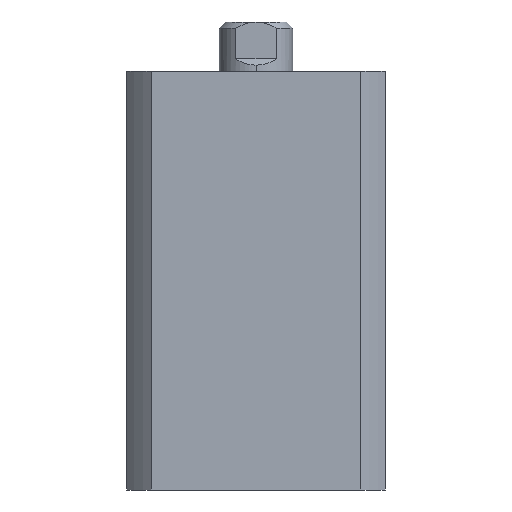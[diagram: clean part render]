
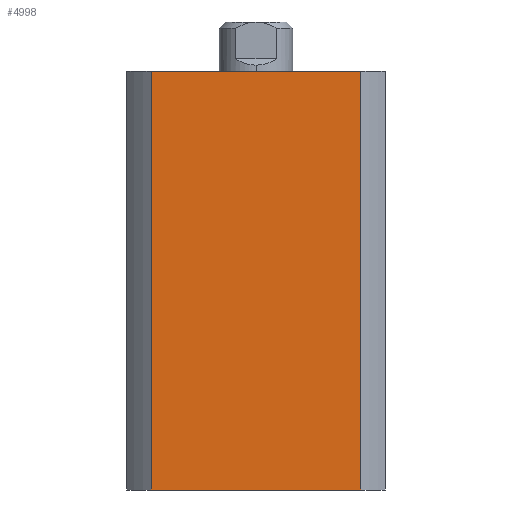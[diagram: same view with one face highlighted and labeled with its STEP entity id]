
A CAD part, left-side view. The second image highlights one B-rep face of the part: STEP entity #4998.
In plain terms, the highlighted planar face has unit normal (-1, 0, 0).
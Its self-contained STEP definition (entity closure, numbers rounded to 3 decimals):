
#186 = DIRECTION ( 'NONE',  ( 0., -1., 0. ) ) ;
#187 = CARTESIAN_POINT ( 'NONE',  ( -21., 21., 68. ) ) ;
#803 = DIRECTION ( 'NONE',  ( 0., 1., 0. ) ) ;
#808 = DIRECTION ( 'NONE',  ( 1., 0., 0. ) ) ;
#816 = PLANE ( 'NONE',  #3208 ) ;
#836 = CARTESIAN_POINT ( 'NONE',  ( -21., 21., 68. ) ) ;
#1145 = EDGE_LOOP ( 'NONE', ( #2230, #2227, #2228, #2225 ) ) ;
#1395 = VERTEX_POINT ( 'NONE', #3787 ) ;
#1487 = VERTEX_POINT ( 'NONE', #3535 ) ;
#1498 = VERTEX_POINT ( 'NONE', #3494 ) ;
#1507 = VERTEX_POINT ( 'NONE', #3455 ) ;
#1699 = VECTOR ( 'NONE', #4692, 1000. ) ;
#1701 = LINE ( 'NONE', #4691, #1699 ) ;
#1702 = VECTOR ( 'NONE', #4698, 1000. ) ;
#1716 = LINE ( 'NONE', #4690, #1702 ) ;
#1717 = VECTOR ( 'NONE', #4736, 1000. ) ;
#1719 = LINE ( 'NONE', #4746, #1717 ) ;
#1834 = VECTOR ( 'NONE', #186, 1000. ) ;
#1836 = LINE ( 'NONE', #187, #1834 ) ;
#2225 = ORIENTED_EDGE ( 'NONE', *, *, #4481, .T. ) ;
#2227 = ORIENTED_EDGE ( 'NONE', *, *, #4335, .F. ) ;
#2228 = ORIENTED_EDGE ( 'NONE', *, *, #4493, .F. ) ;
#2230 = ORIENTED_EDGE ( 'NONE', *, *, #4491, .F. ) ;
#3208 = AXIS2_PLACEMENT_3D ( 'NONE', #836, #808, #803 ) ;
#3455 = CARTESIAN_POINT ( 'NONE',  ( -21., 16.971, 0. ) ) ;
#3494 = CARTESIAN_POINT ( 'NONE',  ( -21., -16.971, 68. ) ) ;
#3535 = CARTESIAN_POINT ( 'NONE',  ( -21., 16.971, 68. ) ) ;
#3787 = CARTESIAN_POINT ( 'NONE',  ( -21., -16.971, 0. ) ) ;
#3960 = FACE_OUTER_BOUND ( 'NONE', #1145, .T. ) ;
#4335 = EDGE_CURVE ( 'NONE', #1487, #1498, #1836, .T. ) ;
#4481 = EDGE_CURVE ( 'NONE', #1507, #1395, #1719, .T. ) ;
#4491 = EDGE_CURVE ( 'NONE', #1498, #1395, #1716, .T. ) ;
#4493 = EDGE_CURVE ( 'NONE', #1507, #1487, #1701, .T. ) ;
#4690 = CARTESIAN_POINT ( 'NONE',  ( -21., -16.971, 68. ) ) ;
#4691 = CARTESIAN_POINT ( 'NONE',  ( -21., 16.971, 68. ) ) ;
#4692 = DIRECTION ( 'NONE',  ( 0., 0., 1. ) ) ;
#4698 = DIRECTION ( 'NONE',  ( 0., 0., -1. ) ) ;
#4736 = DIRECTION ( 'NONE',  ( 0., -1., 0. ) ) ;
#4746 = CARTESIAN_POINT ( 'NONE',  ( -21., 21., 0. ) ) ;
#4998 = ADVANCED_FACE ( 'NONE', ( #3960 ), #816, .F. ) ;
